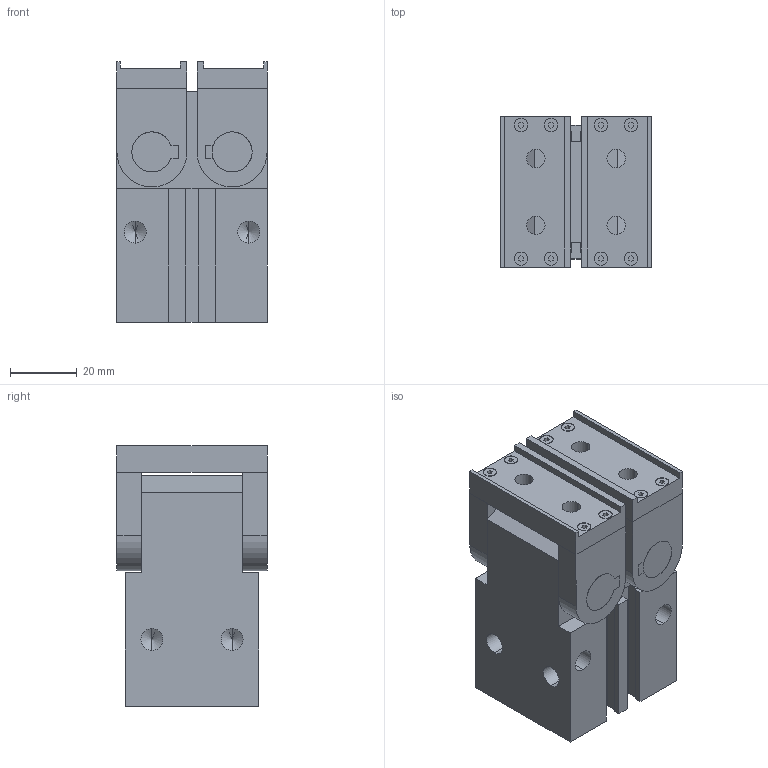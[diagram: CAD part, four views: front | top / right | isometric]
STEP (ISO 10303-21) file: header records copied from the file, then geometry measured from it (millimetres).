
FILE_DESCRIPTION (( 'STEP AP203' ), '1' );
FILE_NAME ('GHK 25 close.STEP', '2013-03-04T09:47:57', ( 'Conseil Régional Haute-Normandie' ), ( 'Conseil Régional Haute-Normandie' ), 'SwSTEP 2.0', 'SolidWorks 2010', '' );
FILE_SCHEMA (( 'CONFIG_CONTROL_DESIGN' ));
Length unit declared in the file: millimetre
Products named in the file (5): Pièce3 ghk_Default; Pièce1 GHK25_Default; Pièce5 GHK25_Default; Pièce4 GHK25_Default; GHK 25 close
Assembly tree (9 placements, depth 2):
  GHK 25 close
    Pièce4 GHK25_Default  x2
    Pièce5 GHK25_Default  x4
    Pièce1 GHK25_Default
    Pièce3 ghk_Default  x2
Bounding box: 45 x 45 x 78 mm (x, y, z)
Volume: 127192.5 mm3; surface area: 36199 mm2
Topology: 9 solids, 9 shells, 285 faces, 715 edges, 457 vertices
Faces by surface type: plane 193, cylinder 72, cone 20
Entity records: 5961 total; most frequent: CARTESIAN_POINT 935, DIRECTION 914, ORIENTED_EDGE 880, EDGE_CURVE 440, VECTOR 342, LINE 342, VERTEX_POINT 287, AXIS2_PLACEMENT_3D 286
